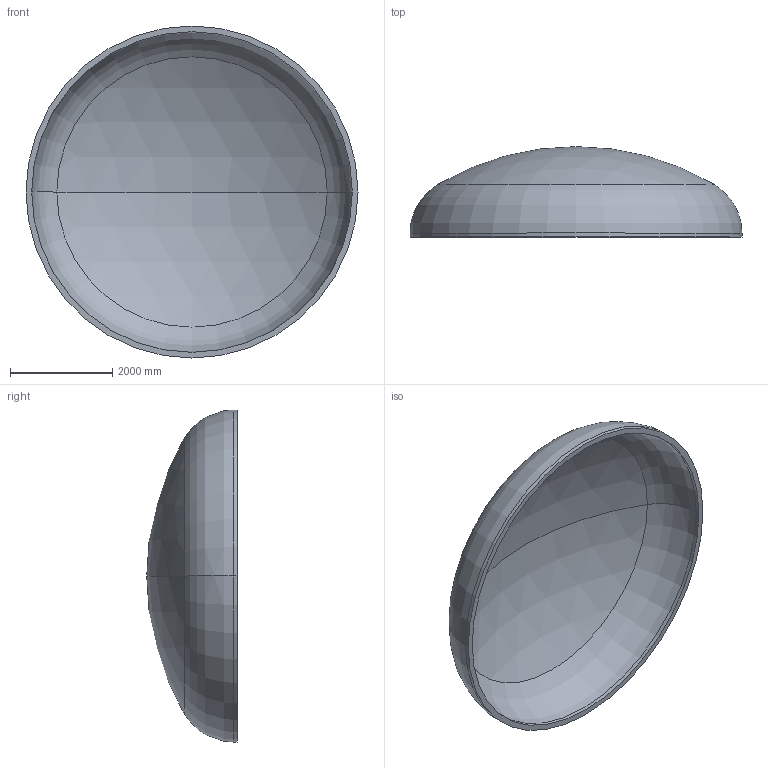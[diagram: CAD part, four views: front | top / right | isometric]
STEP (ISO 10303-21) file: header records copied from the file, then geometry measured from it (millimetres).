
FILE_DESCRIPTION (( 'STEP AP203' ), '1' );
FILE_NAME ('DIN 28013 Korbbogenform_-_Boden DIN 28013 - 6500 x 75 - I - s=112.step', '2016-07-04T10:44:22', ( '' ), ( '' ), 'SwSTEP 2.0', 'SolidWorks 2013', '' );
FILE_SCHEMA (( 'CONFIG_CONTROL_DESIGN' ));
Length unit declared in the file: millimetre
Products named in the file (1): DIN 28013 Korbbogenform_-_Boden DIN 28013 - 6500 x 75 - I - s=112
Bounding box: 6500 x 1771.9 x 6500 mm (x, y, z)
Volume: 5199226679.9 mm3; surface area: 95117242 mm2
Topology: 1 solids, 1 shells, 13 faces, 24 edges, 14 vertices
Faces by surface type: torus 4, cylinder 4, sphere 4, plane 1
Entity records: 407 total; most frequent: DIRECTION 72, CARTESIAN_POINT 52, ORIENTED_EDGE 48, AXIS2_PLACEMENT_3D 34, EDGE_CURVE 24, CIRCLE 20, VERTEX_POINT 14, EDGE_LOOP 14
